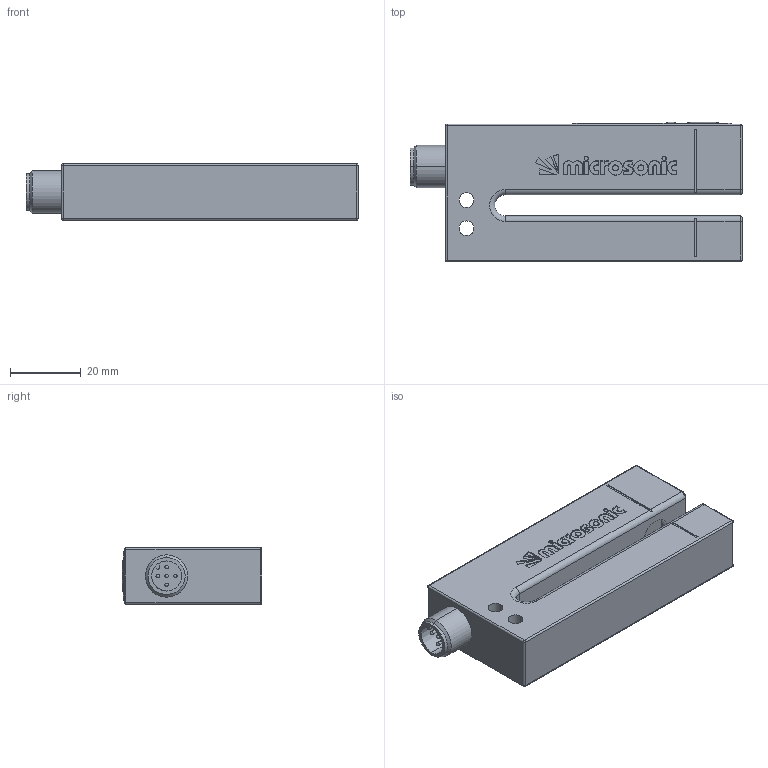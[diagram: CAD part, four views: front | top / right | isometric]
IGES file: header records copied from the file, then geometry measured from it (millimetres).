
Global section: file name: No Iges File Name specified; native system: Autodesk Inventor 2009; preprocessor: AutoDesk Inventor Iges Exporter R2009; author: Oliver Liedtke; date: 20110517.095221; units: millimetre
Bounding box: 94 x 39.6 x 16 mm (x, y, z)
Volume: 44441.2 mm3; surface area: 13189 mm2
Topology: 1 solids, 3 shells, 386 faces, 987 edges, 617 vertices
Faces by surface type: plane 208, cylinder 56, revolution 55, cone 30, sphere 25, bspline 6, torus 6
